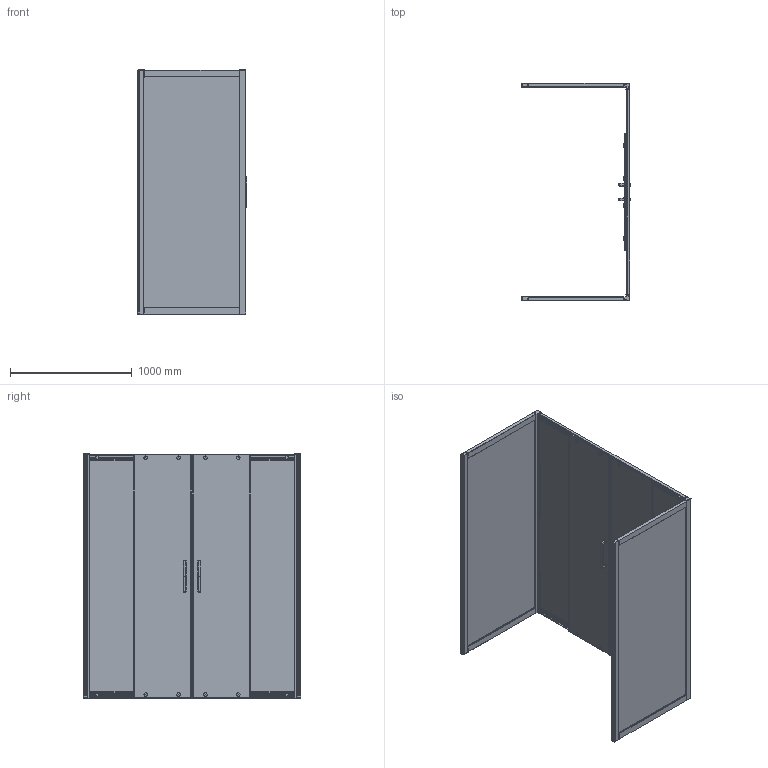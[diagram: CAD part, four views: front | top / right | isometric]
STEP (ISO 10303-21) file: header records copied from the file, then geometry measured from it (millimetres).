
FILE_DESCRIPTION(/* description */ (''),/* implementation_level */ '2;1');
FILE_NAME(/* name */ 'C:\4\! Кубеле\19\KÜBELE DE019R4U\KÜBELE DE019R4U-3D.stp',/* time_stamp */ '2019-06-17T13:40:23+03:00',/* author */ ('ChechurovS'),/* organization */ (''),/* preprocessor_version */ 'ST-DEVELOPER v15.2',/* originating_system */ 'Autodesk Inventor 2014',/* authorisation */ '');
FILE_SCHEMA (('CONFIG_CONTROL_DESIGN'));
Products named in the file (1): KÜBELE DE019R4U-3D
Bounding box: 899.52 x 1785.2 x 2002.5 mm (x, y, z)
Volume: 61712930.6 mm3; surface area: 16489705.2 mm2
Topology: 1 solids, 31 shells, 3121 faces, 8779 edges, 5621 vertices
Faces by surface type: plane 1587, cylinder 954, bspline 252, torus 154, cone 102, sphere 72
Full cylindrical faces by diameter (mm): 2.5 x2, 3 x4, 3.7 x36, 4 x4, 7 x4, 8.4 x8, 9.5 x16, 10 x4, 13.2 x8, 14 x16, 16.5 x16, 18 x16, 19 x24, 22 x8, 28.7 x8, 30 x10
Entity records: 137464 total; most frequent: CARTESIAN_POINT 55034, ORIENTED_EDGE 16854, DIRECTION 16072, EDGE_CURVE 8417, VERTEX_POINT 5513, AXIS2_PLACEMENT_3D 5460, LINE 5152, VECTOR 5152
